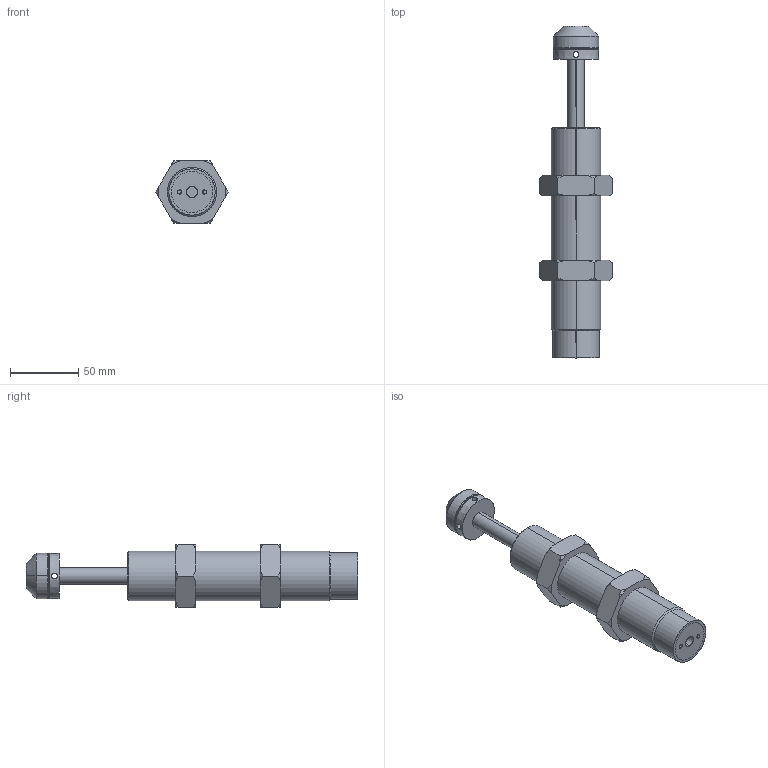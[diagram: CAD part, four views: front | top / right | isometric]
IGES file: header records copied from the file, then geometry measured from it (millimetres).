
Start section: SolidWorks IGES file using analytic representation for surfaces
Global section: file name: Y:\CAD\HP梡CAD僨乕僞\210305_HP峏怴梡\3D\FK-3650-R.IGS; native system: SolidWorks 2021; preprocessor: SolidWorks 2021; author: flgijutsu; date: 210310.161445; units: millimetre
Bounding box: 53.12 x 242.8 x 46 mm (x, y, z)
Surface area: 37723.4 mm2 (no closed solid volume)
Topology: 0 solids, 0 shells, 111 faces, 2230 edges, 2230 vertices
Faces by surface type: revolution 76, bspline 35
